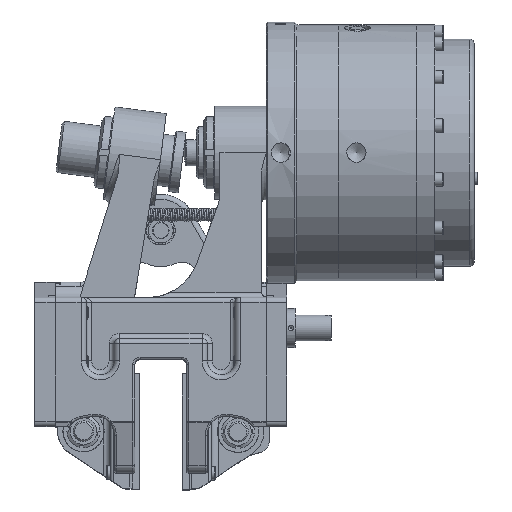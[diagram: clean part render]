
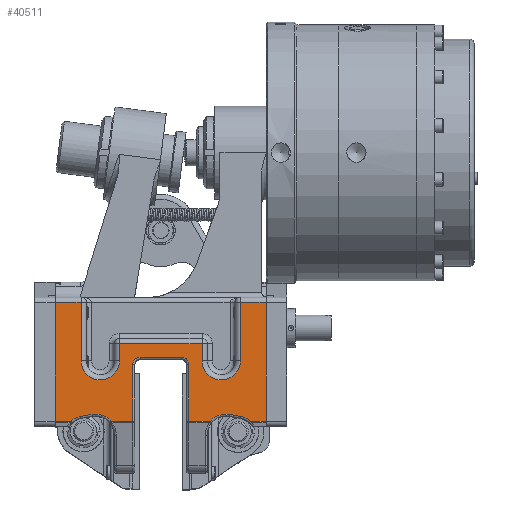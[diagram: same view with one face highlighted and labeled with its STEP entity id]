
A CAD part, top view. The second image highlights one B-rep face of the part: STEP entity #40511.
In plain terms, the highlighted planar face has unit normal (0, 0, 1).
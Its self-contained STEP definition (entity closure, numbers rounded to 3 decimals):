
#3384=FACE_OUTER_BOUND('',#5803,.T.);
#5803=EDGE_LOOP('',(#31904,#31905,#31906,#31907,#31908,#31909,#31910,#31911,
#31912,#31913,#31914,#31915,#31916,#31917,#31918,#31919,#31920,#31921,#31922,
#31923,#31924,#31925,#31926,#31927,#31928,#31929));
#8358=CIRCLE('',#44366,20.);
#8362=CIRCLE('',#44372,18.);
#8364=CIRCLE('',#44378,7.);
#8365=CIRCLE('',#44379,7.);
#8366=CIRCLE('',#44380,20.);
#8367=CIRCLE('',#44381,18.);
#8368=CIRCLE('',#44382,18.5);
#8369=CIRCLE('',#44383,18.5);
#10713=LINE('',#69682,#13359);
#10777=LINE('',#69909,#13423);
#10778=LINE('',#69982,#13424);
#10780=LINE('',#69986,#13426);
#10781=LINE('',#69988,#13427);
#10782=LINE('',#69992,#13428);
#10783=LINE('',#69996,#13429);
#10784=LINE('',#69998,#13430);
#10785=LINE('',#70002,#13431);
#10786=LINE('',#70006,#13432);
#10787=LINE('',#70008,#13433);
#10788=LINE('',#70010,#13434);
#10789=LINE('',#70012,#13435);
#10790=LINE('',#70016,#13436);
#10791=LINE('',#70018,#13437);
#10792=LINE('',#70020,#13438);
#10793=LINE('',#70024,#13439);
#10794=LINE('',#70025,#13440);
#13359=VECTOR('',#53508,10.);
#13423=VECTOR('',#53660,10.);
#13424=VECTOR('',#53677,10.);
#13426=VECTOR('',#53681,10.);
#13427=VECTOR('',#53682,10.);
#13428=VECTOR('',#53685,10.);
#13429=VECTOR('',#53688,10.);
#13430=VECTOR('',#53689,10.);
#13431=VECTOR('',#53692,10.);
#13432=VECTOR('',#53695,10.);
#13433=VECTOR('',#53696,10.);
#13434=VECTOR('',#53697,5.);
#13435=VECTOR('',#53698,10.);
#13436=VECTOR('',#53701,10.);
#13437=VECTOR('',#53702,10.);
#13438=VECTOR('',#53703,10.);
#13439=VECTOR('',#53706,10.);
#13440=VECTOR('',#53707,5.);
#17339=VERTEX_POINT('',#69675);
#17341=VERTEX_POINT('',#69681);
#17395=VERTEX_POINT('',#69887);
#17397=VERTEX_POINT('',#69899);
#17399=VERTEX_POINT('',#69905);
#17401=VERTEX_POINT('',#69911);
#17407=VERTEX_POINT('',#69985);
#17408=VERTEX_POINT('',#69987);
#17409=VERTEX_POINT('',#69989);
#17410=VERTEX_POINT('',#69991);
#17411=VERTEX_POINT('',#69993);
#17412=VERTEX_POINT('',#69995);
#17413=VERTEX_POINT('',#69997);
#17414=VERTEX_POINT('',#69999);
#17415=VERTEX_POINT('',#70001);
#17416=VERTEX_POINT('',#70003);
#17417=VERTEX_POINT('',#70005);
#17418=VERTEX_POINT('',#70007);
#17419=VERTEX_POINT('',#70009);
#17420=VERTEX_POINT('',#70011);
#17421=VERTEX_POINT('',#70013);
#17422=VERTEX_POINT('',#70015);
#17423=VERTEX_POINT('',#70017);
#17424=VERTEX_POINT('',#70019);
#17425=VERTEX_POINT('',#70021);
#17426=VERTEX_POINT('',#70023);
#22389=EDGE_CURVE('',#17341,#17339,#10713,.T.);
#22474=EDGE_CURVE('',#17395,#17397,#8358,.T.);
#22477=EDGE_CURVE('',#17397,#17399,#10777,.T.);
#22480=EDGE_CURVE('',#17399,#17401,#8362,.T.);
#22487=EDGE_CURVE('',#17401,#17339,#10778,.T.);
#22489=EDGE_CURVE('',#17407,#17395,#10780,.T.);
#22490=EDGE_CURVE('',#17408,#17407,#10781,.T.);
#22491=EDGE_CURVE('',#17409,#17408,#8364,.T.);
#22492=EDGE_CURVE('',#17410,#17409,#10782,.T.);
#22493=EDGE_CURVE('',#17411,#17410,#8365,.T.);
#22494=EDGE_CURVE('',#17412,#17411,#10783,.T.);
#22495=EDGE_CURVE('',#17413,#17412,#10784,.T.);
#22496=EDGE_CURVE('',#17414,#17413,#8366,.T.);
#22497=EDGE_CURVE('',#17415,#17414,#10785,.T.);
#22498=EDGE_CURVE('',#17416,#17415,#8367,.T.);
#22499=EDGE_CURVE('',#17417,#17416,#10786,.T.);
#22500=EDGE_CURVE('',#17418,#17417,#10787,.T.);
#22501=EDGE_CURVE('',#17419,#17418,#10788,.T.);
#22502=EDGE_CURVE('',#17420,#17419,#10789,.T.);
#22503=EDGE_CURVE('',#17421,#17420,#8368,.T.);
#22504=EDGE_CURVE('',#17422,#17421,#10790,.T.);
#22505=EDGE_CURVE('',#17423,#17422,#10791,.T.);
#22506=EDGE_CURVE('',#17424,#17423,#10792,.T.);
#22507=EDGE_CURVE('',#17425,#17424,#8369,.T.);
#22508=EDGE_CURVE('',#17426,#17425,#10793,.T.);
#22509=EDGE_CURVE('',#17341,#17426,#10794,.T.);
#31904=ORIENTED_EDGE('',*,*,#22480,.F.);
#31905=ORIENTED_EDGE('',*,*,#22477,.F.);
#31906=ORIENTED_EDGE('',*,*,#22474,.F.);
#31907=ORIENTED_EDGE('',*,*,#22489,.F.);
#31908=ORIENTED_EDGE('',*,*,#22490,.F.);
#31909=ORIENTED_EDGE('',*,*,#22491,.F.);
#31910=ORIENTED_EDGE('',*,*,#22492,.F.);
#31911=ORIENTED_EDGE('',*,*,#22493,.F.);
#31912=ORIENTED_EDGE('',*,*,#22494,.F.);
#31913=ORIENTED_EDGE('',*,*,#22495,.F.);
#31914=ORIENTED_EDGE('',*,*,#22496,.F.);
#31915=ORIENTED_EDGE('',*,*,#22497,.F.);
#31916=ORIENTED_EDGE('',*,*,#22498,.F.);
#31917=ORIENTED_EDGE('',*,*,#22499,.F.);
#31918=ORIENTED_EDGE('',*,*,#22500,.F.);
#31919=ORIENTED_EDGE('',*,*,#22501,.F.);
#31920=ORIENTED_EDGE('',*,*,#22502,.F.);
#31921=ORIENTED_EDGE('',*,*,#22503,.F.);
#31922=ORIENTED_EDGE('',*,*,#22504,.F.);
#31923=ORIENTED_EDGE('',*,*,#22505,.F.);
#31924=ORIENTED_EDGE('',*,*,#22506,.F.);
#31925=ORIENTED_EDGE('',*,*,#22507,.F.);
#31926=ORIENTED_EDGE('',*,*,#22508,.F.);
#31927=ORIENTED_EDGE('',*,*,#22509,.F.);
#31928=ORIENTED_EDGE('',*,*,#22389,.T.);
#31929=ORIENTED_EDGE('',*,*,#22487,.F.);
#36936=PLANE('',#44377);
#40511=ADVANCED_FACE('',(#3384),#36936,.T.);
#44366=AXIS2_PLACEMENT_3D('',#69903,#53653,#53654);
#44372=AXIS2_PLACEMENT_3D('',#69915,#53667,#53668);
#44377=AXIS2_PLACEMENT_3D('',#69984,#53679,#53680);
#44378=AXIS2_PLACEMENT_3D('',#69990,#53683,#53684);
#44379=AXIS2_PLACEMENT_3D('',#69994,#53686,#53687);
#44380=AXIS2_PLACEMENT_3D('',#70000,#53690,#53691);
#44381=AXIS2_PLACEMENT_3D('',#70004,#53693,#53694);
#44382=AXIS2_PLACEMENT_3D('',#70014,#53699,#53700);
#44383=AXIS2_PLACEMENT_3D('',#70022,#53704,#53705);
#53508=DIRECTION('',(0.,-1.,0.));
#53653=DIRECTION('center_axis',(0.,0.,1.));
#53654=DIRECTION('ref_axis',(0.29,0.957,0.));
#53660=DIRECTION('',(-0.985,-0.174,0.));
#53667=DIRECTION('center_axis',(0.,0.,1.));
#53668=DIRECTION('ref_axis',(-0.388,0.922,0.));
#53677=DIRECTION('',(-1.,0.,0.));
#53679=DIRECTION('center_axis',(0.,0.,1.));
#53680=DIRECTION('ref_axis',(1.,0.,0.));
#53681=DIRECTION('',(-1.,0.,0.));
#53682=DIRECTION('',(0.,-1.,0.));
#53683=DIRECTION('center_axis',(0.,0.,1.));
#53684=DIRECTION('ref_axis',(-0.707,0.707,0.));
#53685=DIRECTION('',(-1.,0.,0.));
#53686=DIRECTION('center_axis',(0.,0.,1.));
#53687=DIRECTION('ref_axis',(0.707,0.707,0.));
#53688=DIRECTION('',(0.,1.,0.));
#53689=DIRECTION('',(-1.,0.,0.));
#53690=DIRECTION('center_axis',(0.,0.,1.));
#53691=DIRECTION('ref_axis',(-0.29,0.957,0.));
#53692=DIRECTION('',(-0.985,0.174,0.));
#53693=DIRECTION('center_axis',(0.,0.,1.));
#53694=DIRECTION('ref_axis',(0.388,0.922,0.));
#53695=DIRECTION('',(-1.,0.,0.));
#53696=DIRECTION('',(0.,-1.,0.));
#53697=DIRECTION('',(1.,0.,0.));
#53698=DIRECTION('',(0.,1.,0.));
#53699=DIRECTION('center_axis',(0.,0.,1.));
#53700=DIRECTION('ref_axis',(0.,-1.,0.));
#53701=DIRECTION('',(0.,-1.,0.));
#53702=DIRECTION('',(1.,0.,0.));
#53703=DIRECTION('',(0.,1.,0.));
#53704=DIRECTION('center_axis',(0.,0.,1.));
#53705=DIRECTION('ref_axis',(0.,-1.,0.));
#53706=DIRECTION('',(0.,-1.,0.));
#53707=DIRECTION('',(1.,0.,0.));
#69675=CARTESIAN_POINT('',(-102.,50.,285.));
#69681=CARTESIAN_POINT('',(-102.,165.,285.));
#69682=CARTESIAN_POINT('',(-102.,45.,285.));
#69887=CARTESIAN_POINT('',(-47.801,50.,285.));
#69899=CARTESIAN_POINT('',(-66.478,56.695,285.));
#69903=CARTESIAN_POINT('Origin',(-63.,37.,285.));
#69905=CARTESIAN_POINT('',(-77.63,54.726,285.));
#69909=CARTESIAN_POINT('',(-36.958,61.909,285.));
#69911=CARTESIAN_POINT('',(-86.95,50.,285.));
#69915=CARTESIAN_POINT('Origin',(-74.5,37.,285.));
#69982=CARTESIAN_POINT('',(-102.,50.,285.));
#69984=CARTESIAN_POINT('Origin',(0.,90.129,285.));
#69985=CARTESIAN_POINT('',(-27.,50.,285.));
#69986=CARTESIAN_POINT('',(-102.,50.,285.));
#69987=CARTESIAN_POINT('',(-27.,105.,285.));
#69988=CARTESIAN_POINT('',(-27.,45.065,285.));
#69989=CARTESIAN_POINT('',(-20.,112.,285.));
#69990=CARTESIAN_POINT('Origin',(-20.,105.,285.));
#69991=CARTESIAN_POINT('',(20.,112.,285.));
#69992=CARTESIAN_POINT('',(-10.,112.,285.));
#69993=CARTESIAN_POINT('',(27.,105.,285.));
#69994=CARTESIAN_POINT('Origin',(20.,105.,285.));
#69995=CARTESIAN_POINT('',(27.,50.,285.));
#69996=CARTESIAN_POINT('',(27.,97.565,285.));
#69997=CARTESIAN_POINT('',(47.801,50.,285.));
#69998=CARTESIAN_POINT('',(-102.,50.,285.));
#69999=CARTESIAN_POINT('',(66.478,56.695,285.));
#70000=CARTESIAN_POINT('Origin',(63.,37.,285.));
#70001=CARTESIAN_POINT('',(77.63,54.726,285.));
#70002=CARTESIAN_POINT('',(31.381,62.893,285.));
#70003=CARTESIAN_POINT('',(86.95,50.,285.));
#70004=CARTESIAN_POINT('Origin',(74.5,37.,285.));
#70005=CARTESIAN_POINT('',(102.,50.,285.));
#70006=CARTESIAN_POINT('',(-102.,50.,285.));
#70007=CARTESIAN_POINT('',(102.,165.,285.));
#70008=CARTESIAN_POINT('',(102.,165.,285.));
#70009=CARTESIAN_POINT('',(77.,165.,285.));
#70010=CARTESIAN_POINT('',(0.,165.,285.));
#70011=CARTESIAN_POINT('',(77.,108.5,285.));
#70012=CARTESIAN_POINT('',(77.,127.565,285.));
#70013=CARTESIAN_POINT('',(40.,108.5,285.));
#70014=CARTESIAN_POINT('Origin',(58.5,108.5,285.));
#70015=CARTESIAN_POINT('',(40.,125.,285.));
#70016=CARTESIAN_POINT('',(40.,99.315,285.));
#70017=CARTESIAN_POINT('',(-40.,125.,285.));
#70018=CARTESIAN_POINT('',(20.,125.,285.));
#70019=CARTESIAN_POINT('',(-40.,108.5,285.));
#70020=CARTESIAN_POINT('',(-40.,107.565,285.));
#70021=CARTESIAN_POINT('',(-77.,108.5,285.));
#70022=CARTESIAN_POINT('Origin',(-58.5,108.5,285.));
#70023=CARTESIAN_POINT('',(-77.,165.,285.));
#70024=CARTESIAN_POINT('',(-77.,99.315,285.));
#70025=CARTESIAN_POINT('',(102.,165.,285.));
